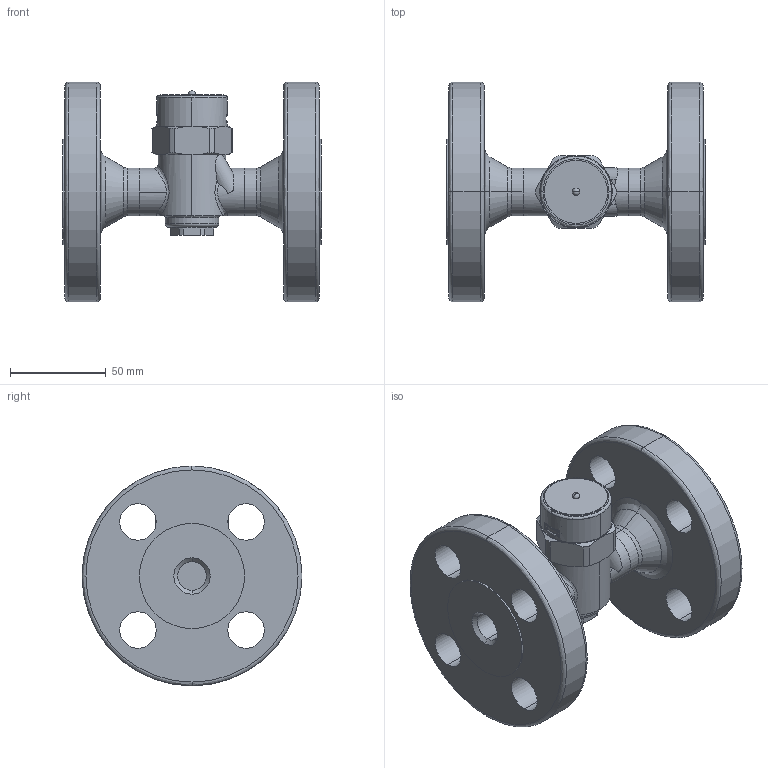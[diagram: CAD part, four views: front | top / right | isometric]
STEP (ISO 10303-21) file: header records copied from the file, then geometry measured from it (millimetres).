
FILE_DESCRIPTION( (''), '2;1');
FILE_NAME ('PC1276.13744.TSD-42F 15A JIS30K_29513.stp','2023-07-25T10:02:08',(''),(''),'spGate 19.8.4 (****-****-****-****)','','');
FILE_SCHEMA (('AUTOMOTIVE_DESIGN'));
Length unit declared in the file: millimetre
Products named in the file (10): Assembly; TSD-42F strainer cap; TSD-42F 銘板鋲; TSD-42F 15A  本体　3D; TSD-42F gasket; TSD-42F キャップA 3D; TSD-42F 保温カバー　3D; TSD-42F 銘板　3D; TSD-42F 15A 30K Flange 3D; TSD-42F 15A 30K Flange 3D_mr
Assembly tree (9 placements, depth 2):
  Assembly
    TSD-42F strainer cap
    TSD-42F 銘板鋲
    TSD-42F 15A  本体　3D
    TSD-42F gasket
    TSD-42F キャップA 3D
    TSD-42F 保温カバー　3D
    TSD-42F 銘板　3D
    TSD-42F 15A 30K Flange 3D
    TSD-42F 15A 30K Flange 3D_mr
Bounding box: 135 x 115 x 115 mm (x, y, z)
Volume: 441433.1 mm3; surface area: 90694.6 mm2
Topology: 9 solids, 9 shells, 282 faces, 651 edges, 386 vertices
Faces by surface type: cylinder 119, bspline 109, plane 52, sphere 2
Entity records: 15839 total; most frequent: CARTESIAN_POINT 4826, ORIENTED_EDGE 1258, DIRECTION 1053, COLOUR_RGB 920, PRESENTATION_STYLE_ASSIGNMENT 920, STYLED_ITEM 920, EDGE_CURVE 629, DRAUGHTING_PRE_DEFINED_CURVE_FONT 629
